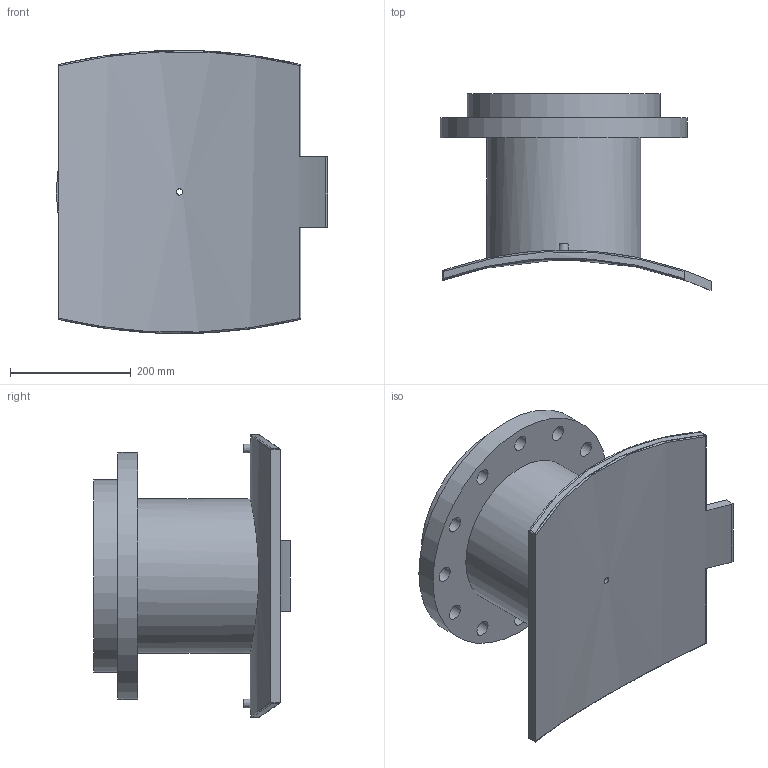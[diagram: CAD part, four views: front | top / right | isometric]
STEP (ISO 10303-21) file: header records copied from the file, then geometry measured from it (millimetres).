
FILE_DESCRIPTION(/* description */ ('PLASSON FLANGED BRANCH SADDLE 1200X250'),/* implementation_level */ '2;1');
FILE_NAME(/* name */ 'C:\Dropbox\KIMPROJECTS-Inventor 2019\99-16-3568-Processing\ElectroFusion Fittings\495904_495903\stp\4959031200250T.stp',/* time_stamp */ '2024-04-03T21:04:26+02:00',/* author */ ('KIM'),/* organization */ (''),/* preprocessor_version */ 'ST-DEVELOPER v17.2',/* originating_system */ 'Autodesk Inventor 2019',/* authorisation */ '');
FILE_SCHEMA (('AUTOMOTIVE_DESIGN { 1 0 10303 214 3 1 1 }'));
Length unit declared in the file: millimetre
Products named in the file (1): 4959031200250T
Bounding box: 450.85 x 326.28 x 469.52 mm (x, y, z)
Volume: 11492371.1 mm3; surface area: 1015557.6 mm2
Topology: 1 solids, 1 shells, 62 faces, 163 edges, 126 vertices
Faces by surface type: cylinder 35, plane 17, sphere 4, bspline 4, cone 2
Full cylindrical faces by diameter (mm): 4 x2, 10 x2, 10.4 x1, 16 x1, 26 x12, 204 x1, 256 x1, 320 x1, 410 x1
Entity records: 2527 total; most frequent: CARTESIAN_POINT 899, DIRECTION 325, ORIENTED_EDGE 298, EDGE_CURVE 149, AXIS2_PLACEMENT_3D 137, VERTEX_POINT 100, EDGE_LOOP 99, CIRCLE 78
